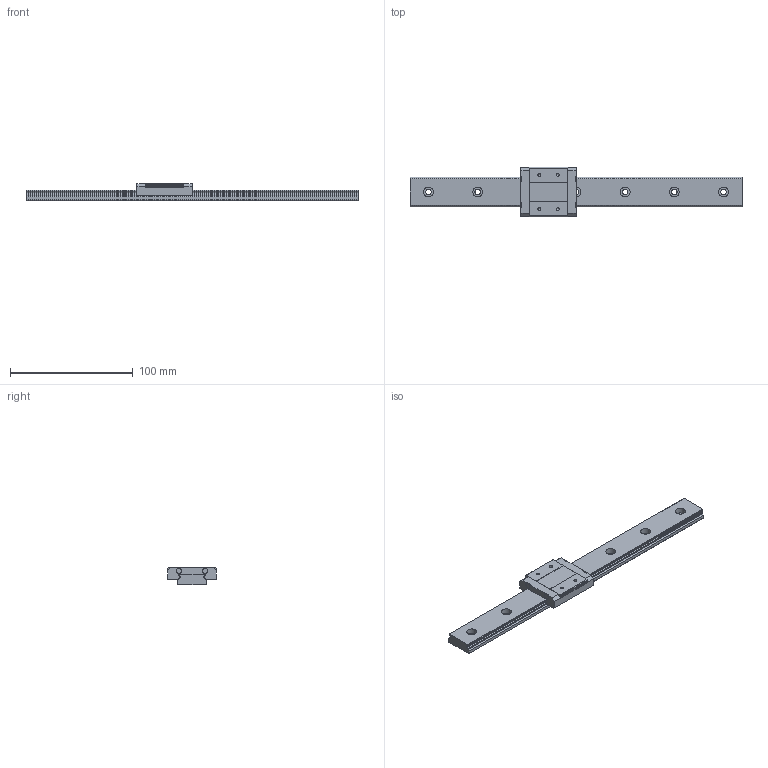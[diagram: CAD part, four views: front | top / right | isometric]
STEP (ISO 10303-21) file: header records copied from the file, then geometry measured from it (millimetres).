
FILE_DESCRIPTION((''),'2;1');
FILE_NAME('D:\製品 (図面)\カタログ用3D\リニアガイド関連\STEP形式\LGM-W\LGM12W.stp','2010-06-02T15:57:53',('Tsuchiya'),(''),'Autodesk Inventor 10','Autodesk Inventor 10','');
FILE_SCHEMA(('AUTOMOTIVE_DESIGN { 1 0 10303 214 1 1 1 1 }'));
Length unit declared in the file: millimetre
Products named in the file (3): LGM12W; LGM12W1; LGM12W2
Assembly tree (2 placements, depth 2):
  LGM12W
    LGM12W1
    LGM12W2
Bounding box: 270 x 40 x 14 mm (x, y, z)
Volume: 61828.3 mm3; surface area: 25422.1 mm2
Topology: 2 solids, 2 shells, 147 faces, 394 edges, 262 vertices
Faces by surface type: plane 78, bspline 35, cylinder 32, cone 2
Full cylindrical faces by diameter (mm): 2.459 x2, 4.28 x2
Entity records: 4802 total; most frequent: CARTESIAN_POINT 1183, ORIENTED_EDGE 724, DIRECTION 700, EDGE_CURVE 362, VECTOR 258, LINE 258, VERTEX_POINT 256, AXIS2_PLACEMENT_3D 221
